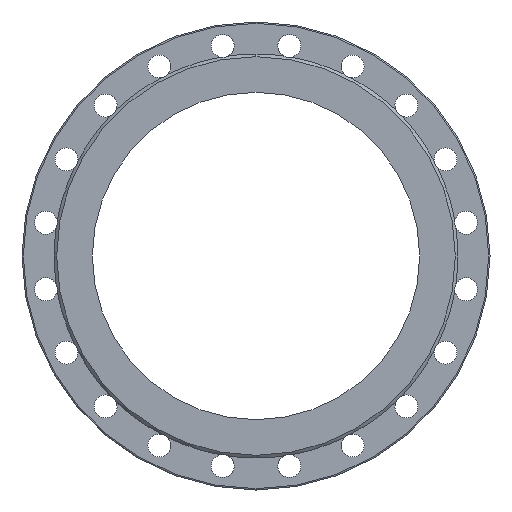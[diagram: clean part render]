
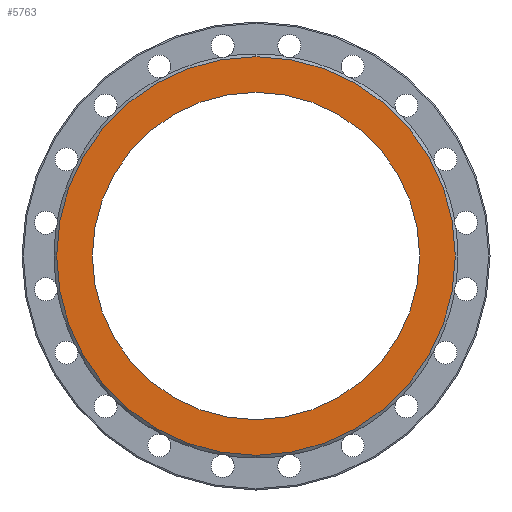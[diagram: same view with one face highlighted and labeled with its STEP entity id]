
A CAD part, left-side view. The second image highlights one B-rep face of the part: STEP entity #5763.
In plain terms, the highlighted planar face has unit normal (-1, 0, 0).
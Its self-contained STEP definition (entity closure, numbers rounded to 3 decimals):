
#103 = DIRECTION ( 'NONE',  ( -1., 0., 0. ) ) ;
#151 = EDGE_CURVE ( 'Defeatured_0_3+Defeatured_0_4+Defeatured_0_4+Defeatured_0_4', #6590, #1808, #1126, .T. ) ;
#399 = DIRECTION ( 'NONE',  ( -1., 0., 0. ) ) ;
#608 = AXIS2_PLACEMENT_3D ( 'NONE', #1512, #4352, #2042 ) ;
#826 = DIRECTION ( 'NONE',  ( 0., 0., 1. ) ) ;
#965 = FACE_OUTER_BOUND ( 'NONE', #1537, .T. ) ;
#998 = DIRECTION ( 'NONE',  ( 0., 0., 1. ) ) ;
#1000 = EDGE_CURVE ( 'Defeatured_0_4+Defeatured_0_0+Defeatured_0_0+Defeatured_0_0', #4812, #1877, #2105, .T. ) ;
#1016 = AXIS2_PLACEMENT_3D ( 'NONE', #6935, #103, #5181 ) ;
#1126 = CIRCLE ( 'NONE', #1016, 250. ) ;
#1473 = FACE_BOUND ( 'NONE', #2461, .T. ) ;
#1512 = CARTESIAN_POINT ( 'NONE',  ( -250., 0., 0. ) ) ;
#1537 = EDGE_LOOP ( 'NONE', ( #4394, #2908 ) ) ;
#1794 = CIRCLE ( 'NONE', #2639, 304.5 ) ;
#1808 = VERTEX_POINT ( 'NONE', #6450 ) ;
#1877 = VERTEX_POINT ( 'NONE', #4666 ) ;
#2042 = DIRECTION ( 'NONE',  ( 0., 0., 1. ) ) ;
#2078 = CARTESIAN_POINT ( 'NONE',  ( -250., 250., 0. ) ) ;
#2105 = CIRCLE ( 'NONE', #6971, 304.5 ) ;
#2461 = EDGE_LOOP ( 'NONE', ( #4823, #3212 ) ) ;
#2639 = AXIS2_PLACEMENT_3D ( 'NONE', #4318, #6731, #998 ) ;
#2908 = ORIENTED_EDGE ( 'NONE', *, *, #1000, .T. ) ;
#3212 = ORIENTED_EDGE ( 'NONE', *, *, #151, .F. ) ;
#3709 = CIRCLE ( 'NONE', #608, 250. ) ;
#3833 = DIRECTION ( 'NONE',  ( 0., 0., -1. ) ) ;
#4318 = CARTESIAN_POINT ( 'NONE',  ( -250., 0., 0. ) ) ;
#4352 = DIRECTION ( 'NONE',  ( -1., 0., 0. ) ) ;
#4387 = PLANE ( 'NONE',  #6558 ) ;
#4394 = ORIENTED_EDGE ( 'NONE', *, *, #5755, .T. ) ;
#4666 = CARTESIAN_POINT ( 'NONE',  ( -250., 0., -304.5 ) ) ;
#4812 = VERTEX_POINT ( 'NONE', #5312 ) ;
#4823 = ORIENTED_EDGE ( 'NONE', *, *, #5781, .F. ) ;
#5181 = DIRECTION ( 'NONE',  ( 0., 0., 1. ) ) ;
#5312 = CARTESIAN_POINT ( 'NONE',  ( -250., 0., 304.5 ) ) ;
#5507 = CARTESIAN_POINT ( 'NONE',  ( -250., 0., 0. ) ) ;
#5726 = CARTESIAN_POINT ( 'NONE',  ( -250., 0., -250. ) ) ;
#5755 = EDGE_CURVE ( 'Defeatured_0_4+Defeatured_0_0+Defeatured_0_0+Defeatured_0_0', #1877, #4812, #1794, .T. ) ;
#5763 = ADVANCED_FACE ( 'Defeatured_0_4', ( #1473, #965 ), #4387, .F. ) ;
#5781 = EDGE_CURVE ( 'Defeatured_0_3+Defeatured_0_4+Defeatured_0_4+Defeatured_0_4', #1808, #6590, #3709, .T. ) ;
#6450 = CARTESIAN_POINT ( 'NONE',  ( -250., 0., 250. ) ) ;
#6558 = AXIS2_PLACEMENT_3D ( 'NONE', #2078, #6654, #3833 ) ;
#6590 = VERTEX_POINT ( 'NONE', #5726 ) ;
#6654 = DIRECTION ( 'NONE',  ( 1., 0., 0. ) ) ;
#6731 = DIRECTION ( 'NONE',  ( -1., 0., 0. ) ) ;
#6935 = CARTESIAN_POINT ( 'NONE',  ( -250., 0., 0. ) ) ;
#6971 = AXIS2_PLACEMENT_3D ( 'NONE', #5507, #399, #826 ) ;
